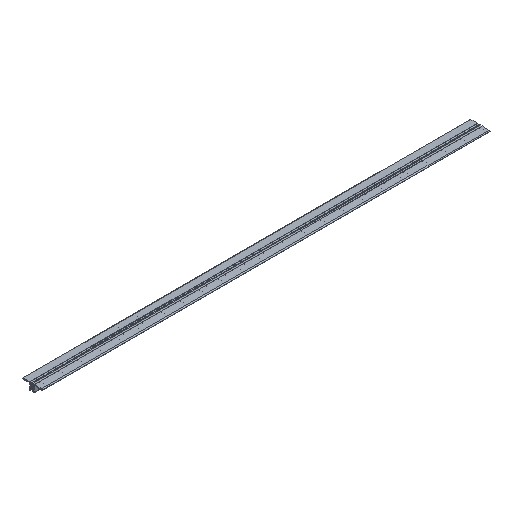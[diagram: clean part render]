
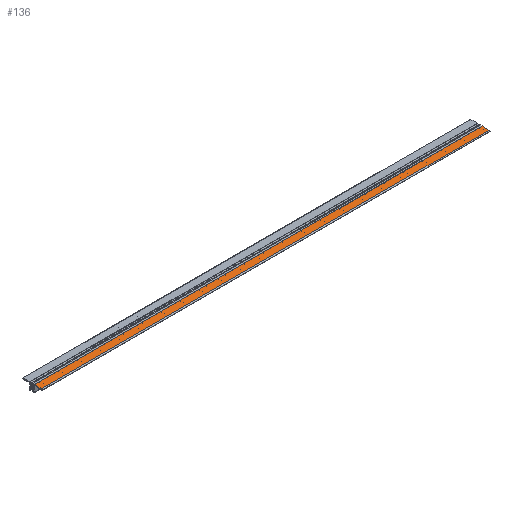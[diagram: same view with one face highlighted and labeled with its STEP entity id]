
A CAD part, isometric view. The second image highlights one B-rep face of the part: STEP entity #136.
In plain terms, the highlighted planar face has unit normal (0, -0.026, 1).
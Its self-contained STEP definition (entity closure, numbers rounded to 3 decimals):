
#136=ADVANCED_FACE('',(#295),#296,.T.);
#295=FACE_OUTER_BOUND('',#489,.T.);
#296=PLANE('',#490);
#489=EDGE_LOOP('',(#988,#989,#990,#991));
#490=AXIS2_PLACEMENT_3D('',#992,#993,#994);
#988=ORIENTED_EDGE('',*,*,#1606,.T.);
#989=ORIENTED_EDGE('',*,*,#1607,.F.);
#990=ORIENTED_EDGE('',*,*,#1608,.T.);
#991=ORIENTED_EDGE('',*,*,#1604,.T.);
#992=CARTESIAN_POINT('',(0.0,-20.452,2.102));
#993=DIRECTION('',(0.0,-0.026,1.));
#994=DIRECTION('',(0.0,-1.,-0.026));
#1604=EDGE_CURVE('',#2012,#2010,#2013,.T.);
#1606=EDGE_CURVE('',#2010,#2015,#2016,.T.);
#1607=EDGE_CURVE('',#2017,#2015,#2018,.T.);
#1608=EDGE_CURVE('',#2017,#2012,#2019,.T.);
#2010=VERTEX_POINT('',#2652);
#2012=VERTEX_POINT('',#2654);
#2013=LINE('',#2655,#2656);
#2015=VERTEX_POINT('',#2658);
#2016=LINE('',#2659,#2660);
#2017=VERTEX_POINT('',#2661);
#2018=LINE('',#2662,#2663);
#2019=LINE('',#2664,#2665);
#2652=CARTESIAN_POINT('',(1000.0,-20.452,2.102));
#2654=CARTESIAN_POINT('',(0.0,-20.452,2.102));
#2655=CARTESIAN_POINT('',(0.0,-20.452,2.102));
#2656=VECTOR('',#3126,1.0);
#2658=CARTESIAN_POINT('',(1000.0,-5.205,2.504));
#2659=CARTESIAN_POINT('',(1000.0,-5.205,2.504));
#2660=VECTOR('',#3130,1.0);
#2661=CARTESIAN_POINT('',(0.0,-5.205,2.504));
#2662=CARTESIAN_POINT('',(0.0,-5.205,2.504));
#2663=VECTOR('',#3131,1.0);
#2664=CARTESIAN_POINT('',(0.0,-5.205,2.504));
#2665=VECTOR('',#3132,1.0);
#3126=DIRECTION('',(1.0,0.0,0.0));
#3130=DIRECTION('',(0.0,1.,0.026));
#3131=DIRECTION('',(1.0,0.0,0.0));
#3132=DIRECTION('',(0.0,-1.,-0.026));
